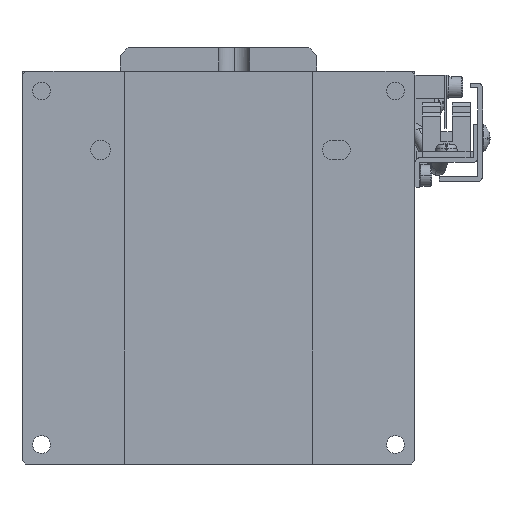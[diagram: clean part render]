
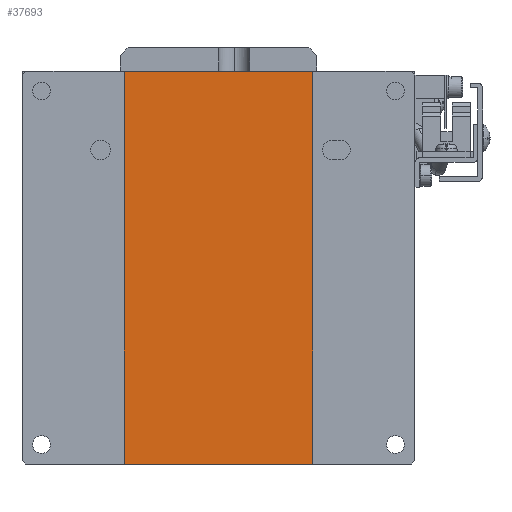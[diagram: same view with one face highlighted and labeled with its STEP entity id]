
A CAD part, front view. The second image highlights one B-rep face of the part: STEP entity #37693.
In plain terms, the highlighted planar face has unit normal (0, -1, 0) as drawn and (1, 0, 0) by its records, which use the part's own axes.
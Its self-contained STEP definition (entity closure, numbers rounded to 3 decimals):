
#1010 = VECTOR ( 'NONE', #30232, 1000. ) ;
#2186 = EDGE_CURVE ( 'NONE', #37686, #7218, #21123, .T. ) ;
#3516 = CARTESIAN_POINT ( 'NONE',  ( -71.594, -5.342, -241.376 ) ) ;
#3761 = CARTESIAN_POINT ( 'NONE',  ( -71.594, -5.342, -241.376 ) ) ;
#5617 = CARTESIAN_POINT ( 'NONE',  ( -71.594, -5.342, -241.376 ) ) ;
#7218 = VERTEX_POINT ( 'NONE', #23390 ) ;
#10876 = CARTESIAN_POINT ( 'NONE',  ( -71.594, -5.342, -141.376 ) ) ;
#14411 = DIRECTION ( 'NONE',  ( 0., 0., 1. ) ) ;
#14841 = ORIENTED_EDGE ( 'NONE', *, *, #2186, .F. ) ;
#15444 = VECTOR ( 'NONE', #28600, 1000. ) ;
#16626 = FACE_OUTER_BOUND ( 'NONE', #42505, .T. ) ;
#17146 = VERTEX_POINT ( 'NONE', #63159 ) ;
#19113 = CARTESIAN_POINT ( 'NONE',  ( -71.594, 42.658, -241.376 ) ) ;
#21123 = LINE ( 'NONE', #5617, #1010 ) ;
#21510 = EDGE_CURVE ( 'NONE', #7218, #17146, #50692, .T. ) ;
#23390 = CARTESIAN_POINT ( 'NONE',  ( -71.594, -5.342, -141.376 ) ) ;
#27878 = ORIENTED_EDGE ( 'NONE', *, *, #21510, .F. ) ;
#28145 = PLANE ( 'NONE',  #41560 ) ;
#28600 = DIRECTION ( 'NONE',  ( 0., 1., 0. ) ) ;
#30232 = DIRECTION ( 'NONE',  ( 0., 0., 1. ) ) ;
#31851 = EDGE_CURVE ( 'NONE', #40952, #17146, #41999, .T. ) ;
#33149 = CARTESIAN_POINT ( 'NONE',  ( -71.594, -5.342, -241.376 ) ) ;
#37334 = VECTOR ( 'NONE', #14411, 1000. ) ;
#37686 = VERTEX_POINT ( 'NONE', #33149 ) ;
#37693 = ADVANCED_FACE ( 'NONE', ( #16626 ), #28145, .T. ) ;
#40324 = DIRECTION ( 'NONE',  ( 0., 1., 0. ) ) ;
#40952 = VERTEX_POINT ( 'NONE', #49405 ) ;
#41560 = AXIS2_PLACEMENT_3D ( 'NONE', #3516, #48115, #48970 ) ;
#41999 = LINE ( 'NONE', #19113, #37334 ) ;
#42505 = EDGE_LOOP ( 'NONE', ( #27878, #14841, #60687, #48593 ) ) ;
#48115 = DIRECTION ( 'NONE',  ( 1., 0., 0. ) ) ;
#48593 = ORIENTED_EDGE ( 'NONE', *, *, #31851, .T. ) ;
#48970 = DIRECTION ( 'NONE',  ( 0., 0., -1. ) ) ;
#49405 = CARTESIAN_POINT ( 'NONE',  ( -71.594, 42.658, -241.376 ) ) ;
#50692 = LINE ( 'NONE', #10876, #51463 ) ;
#51463 = VECTOR ( 'NONE', #40324, 1000. ) ;
#54973 = LINE ( 'NONE', #3761, #15444 ) ;
#56704 = EDGE_CURVE ( 'NONE', #37686, #40952, #54973, .T. ) ;
#60687 = ORIENTED_EDGE ( 'NONE', *, *, #56704, .T. ) ;
#63159 = CARTESIAN_POINT ( 'NONE',  ( -71.594, 42.658, -141.376 ) ) ;
